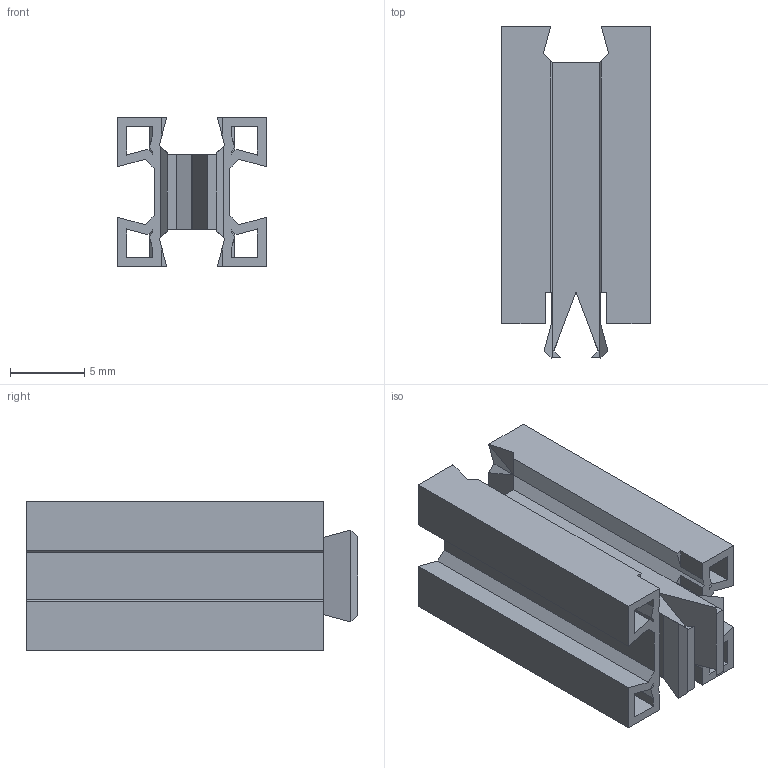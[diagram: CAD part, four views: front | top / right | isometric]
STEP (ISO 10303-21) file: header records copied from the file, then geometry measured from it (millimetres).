
FILE_DESCRIPTION(/* description */ (''),/* implementation_level */ '2;1');
FILE_NAME(/* name */ 'C:/Users/priba/Documents/Temp/Backup/Brick 1x1x2 v4.step',/* time_stamp */ '2019-07-02T17:29:00+02:00',/* author */ (''),/* organization */ (''),/* preprocessor_version */ 'ST-DEVELOPER v18',/* originating_system */ 'Autodesk Translation Framework v8.2.0.1029',/* authorisation */ '');
FILE_SCHEMA (('AUTOMOTIVE_DESIGN { 1 0 10303 214 3 1 1 }'));
Length unit declared in the file: millimetre
Products named in the file (1): Brick 1x1x2
Bounding box: 10 x 22.31 x 10 mm (x, y, z)
Volume: 723.6 mm3; surface area: 2446.8 mm2
Topology: 1 solids, 1 shells, 148 faces, 404 edges, 252 vertices
Faces by surface type: plane 148
Entity records: 4562 total; most frequent: ORIENTED_EDGE 808, CARTESIAN_POINT 805, DIRECTION 702, LINE 404, VECTOR 404, EDGE_CURVE 404, VERTEX_POINT 252, EDGE_LOOP 156
